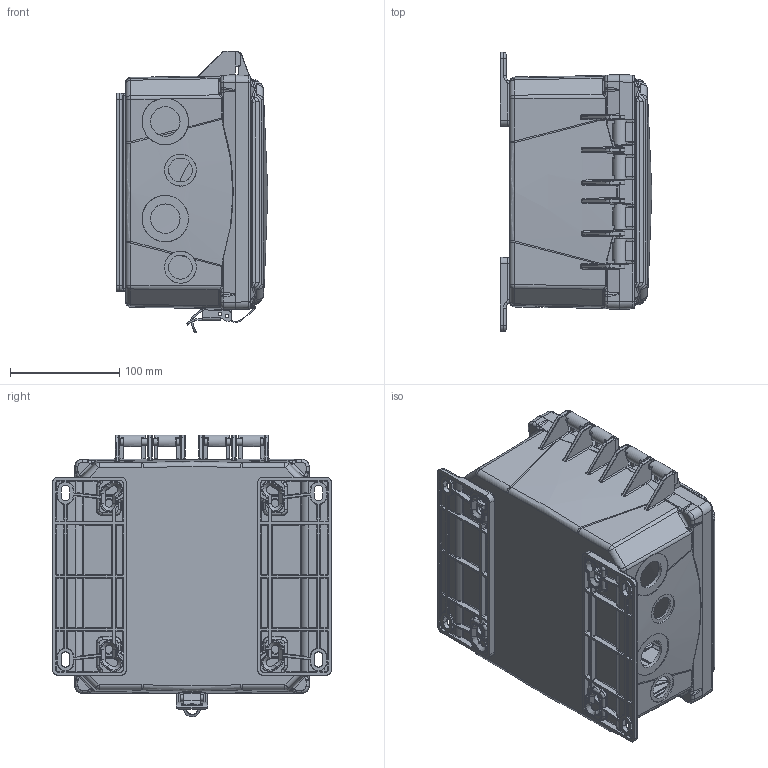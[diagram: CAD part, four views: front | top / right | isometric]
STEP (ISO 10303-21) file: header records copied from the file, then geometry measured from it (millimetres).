
FILE_DESCRIPTION((''),'2;1');
FILE_NAME('ENCLOSURE_H8084HCFLL_ASM','2021-06-16T11:09:11',('gaw'),(''),'CREO PARAMETRIC BY PTC INC, 2019471','CREO PARAMETRIC BY PTC INC, 2019471','');
FILE_SCHEMA(('CONFIG_CONTROL_DESIGN'));
Products named in the file (9): 7-02532-721_ENCLOSURE_BGA244; COVER_CLEAR_SS_LOCK; MANIFOLD_SOLID_BREP_97550; MANIFOLD_SOLID_BREP_99267; MANIFOLD_SOLID_BREP_99759; LATCH_ASM; 8INCH-MOUNTING-FLANGE_34; 8X8X4-ASSEM_ASM_7_ASM; ENCLOSURE_H8084HCFLL_ASM
Assembly tree (9 placements, depth 4):
  ENCLOSURE_H8084HCFLL_ASM
    8X8X4-ASSEM_ASM_7_ASM
      7-02532-721_ENCLOSURE_BGA244
      COVER_CLEAR_SS_LOCK
      LATCH_ASM
        MANIFOLD_SOLID_BREP_97550
        MANIFOLD_SOLID_BREP_99267
        MANIFOLD_SOLID_BREP_99759
      8INCH-MOUNTING-FLANGE_34  x2
Bounding box: 138.81 x 255.52 x 258.03 mm (x, y, z)
Volume: 881242.8 mm3; surface area: 495134.3 mm2
Topology: 7 solids, 7 shells, 3342 faces, 8217 edges, 4816 vertices
Faces by surface type: cylinder 1376, plane 757, bspline 654, torus 291, cone 144, sphere 120
Entity records: 107880 total; most frequent: CARTESIAN_POINT 49620, ORIENTED_EDGE 12984, DIRECTION 11007, EDGE_CURVE 6492, AXIS2_PLACEMENT_3D 4196, VERTEX_POINT 3856, EDGE_LOOP 2778, FACE_OUTER_BOUND 2681
